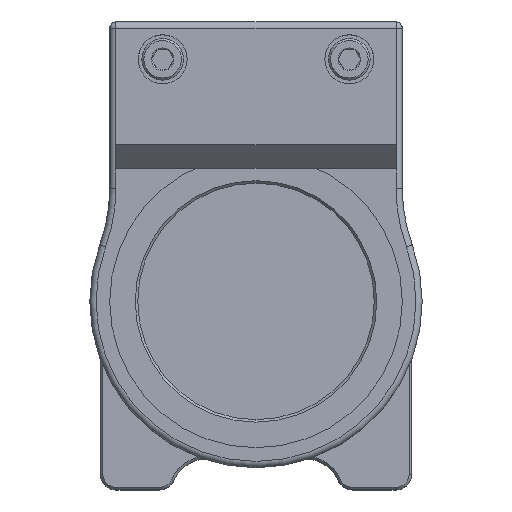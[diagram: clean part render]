
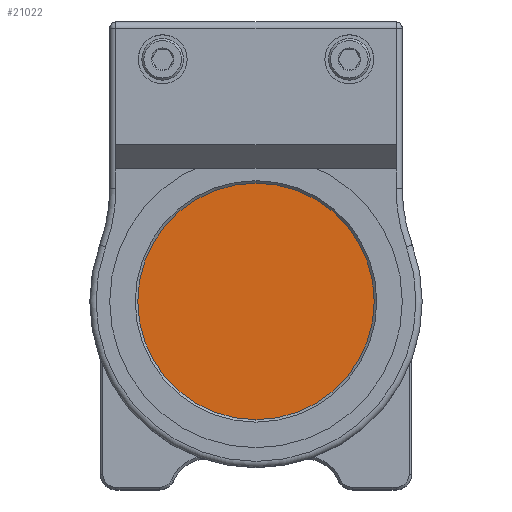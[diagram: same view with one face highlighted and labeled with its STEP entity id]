
A CAD part, top view. The second image highlights one B-rep face of the part: STEP entity #21022.
In plain terms, the highlighted planar face has unit normal (0, 0, 1).
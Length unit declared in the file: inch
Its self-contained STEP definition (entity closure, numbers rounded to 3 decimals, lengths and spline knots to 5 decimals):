
#1090 = DIRECTION ( 'NONE',  ( 0., 0., 1. ) ) ;
#6008 = CARTESIAN_POINT ( 'NONE',  ( -1.1675, 0., 0.1875 ) ) ;
#8925 = CARTESIAN_POINT ( 'NONE',  ( 0., 0., 0.1875 ) ) ;
#8941 = CIRCLE ( 'NONE', #21895, 1.1675 ) ;
#9921 = EDGE_CURVE ( 'NONE', #37978, #33129, #23060, .T. ) ;
#10671 = DIRECTION ( 'NONE',  ( 0., 0., 1. ) ) ;
#12138 = ORIENTED_EDGE ( 'NONE', *, *, #9921, .T. ) ;
#13010 = DIRECTION ( 'NONE',  ( 1., 0., 0. ) ) ;
#13580 = CARTESIAN_POINT ( 'NONE',  ( 0., 0., 0.1875 ) ) ;
#21022 = ADVANCED_FACE ( 'NONE', ( #23791 ), #38053, .T. ) ;
#21796 = CARTESIAN_POINT ( 'NONE',  ( 1.1675, 0., 0.1875 ) ) ;
#21895 = AXIS2_PLACEMENT_3D ( 'NONE', #21903, #1090, #30400 ) ;
#21903 = CARTESIAN_POINT ( 'NONE',  ( 0., 0., 0.1875 ) ) ;
#22508 = EDGE_CURVE ( 'NONE', #33129, #37978, #8941, .T. ) ;
#23060 = CIRCLE ( 'NONE', #34167, 1.1675 ) ;
#23502 = EDGE_LOOP ( 'NONE', ( #12138, #28888 ) ) ;
#23791 = FACE_OUTER_BOUND ( 'NONE', #23502, .T. ) ;
#28888 = ORIENTED_EDGE ( 'NONE', *, *, #22508, .T. ) ;
#30400 = DIRECTION ( 'NONE',  ( 1., 0., 0. ) ) ;
#32468 = DIRECTION ( 'NONE',  ( 0., 0., 1. ) ) ;
#33129 = VERTEX_POINT ( 'NONE', #21796 ) ;
#34167 = AXIS2_PLACEMENT_3D ( 'NONE', #13580, #10671, #13010 ) ;
#35352 = DIRECTION ( 'NONE',  ( 1., 0., 0. ) ) ;
#35448 = AXIS2_PLACEMENT_3D ( 'NONE', #8925, #32468, #35352 ) ;
#37978 = VERTEX_POINT ( 'NONE', #6008 ) ;
#38053 = PLANE ( 'NONE',  #35448 ) ;
